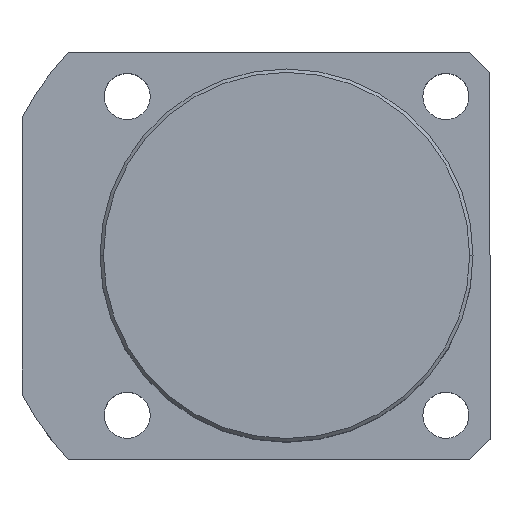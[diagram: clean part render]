
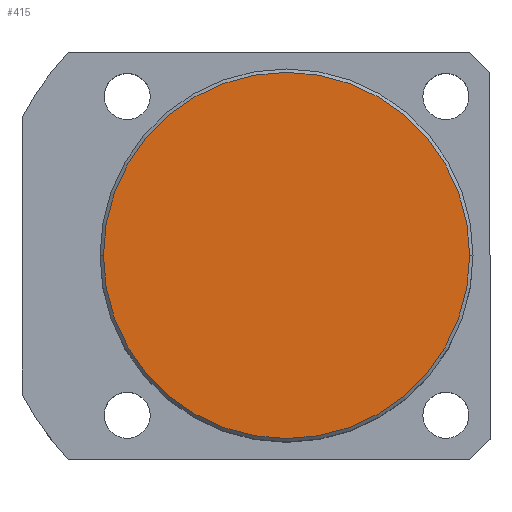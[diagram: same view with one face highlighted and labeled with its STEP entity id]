
A CAD part, top view. The second image highlights one B-rep face of the part: STEP entity #415.
In plain terms, the highlighted planar face has unit normal (0, 0, 1).
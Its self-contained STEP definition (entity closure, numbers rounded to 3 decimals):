
#37 = CIRCLE ( 'NONE', #1276, 27. ) ;
#100 = PLANE ( 'NONE',  #369 ) ;
#281 = CARTESIAN_POINT ( 'NONE',  ( 0., 0., 45. ) ) ;
#369 = AXIS2_PLACEMENT_3D ( 'NONE', #281, #416, #580 ) ;
#415 = ADVANCED_FACE ( 'NONE', ( #1562 ), #100, .T. ) ;
#416 = DIRECTION ( 'NONE',  ( 0., 0., 1. ) ) ;
#580 = DIRECTION ( 'NONE',  ( 1., 0., 0. ) ) ;
#627 = EDGE_LOOP ( 'NONE', ( #676, #662 ) ) ;
#662 = ORIENTED_EDGE ( 'NONE', *, *, #1775, .T. ) ;
#676 = ORIENTED_EDGE ( 'NONE', *, *, #1269, .T. ) ;
#845 = CARTESIAN_POINT ( 'NONE',  ( 27., 0., 45. ) ) ;
#961 = AXIS2_PLACEMENT_3D ( 'NONE', #1222, #1530, #1082 ) ;
#994 = DIRECTION ( 'NONE',  ( 0., 0., 1. ) ) ;
#1082 = DIRECTION ( 'NONE',  ( 1., 0., 0. ) ) ;
#1222 = CARTESIAN_POINT ( 'NONE',  ( 0., 0., 45. ) ) ;
#1269 = EDGE_CURVE ( 'NONE', #1500, #1528, #1635, .T. ) ;
#1276 = AXIS2_PLACEMENT_3D ( 'NONE', #1315, #994, #1737 ) ;
#1315 = CARTESIAN_POINT ( 'NONE',  ( 0., 0., 45. ) ) ;
#1500 = VERTEX_POINT ( 'NONE', #1743 ) ;
#1528 = VERTEX_POINT ( 'NONE', #845 ) ;
#1530 = DIRECTION ( 'NONE',  ( 0., 0., 1. ) ) ;
#1562 = FACE_OUTER_BOUND ( 'NONE', #627, .T. ) ;
#1635 = CIRCLE ( 'NONE', #961, 27. ) ;
#1737 = DIRECTION ( 'NONE',  ( 1., 0., 0. ) ) ;
#1743 = CARTESIAN_POINT ( 'NONE',  ( -27., 0., 45. ) ) ;
#1775 = EDGE_CURVE ( 'NONE', #1528, #1500, #37, .T. ) ;
